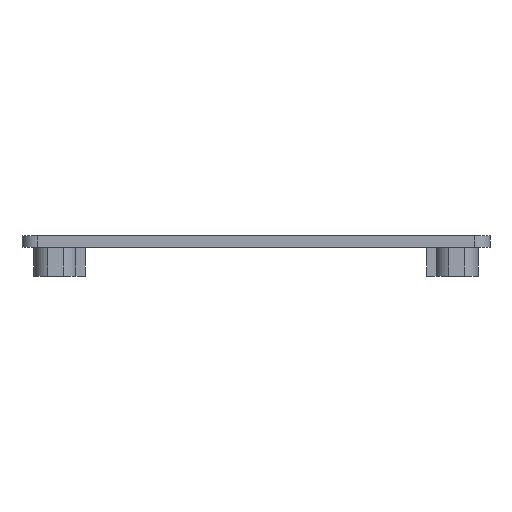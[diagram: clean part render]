
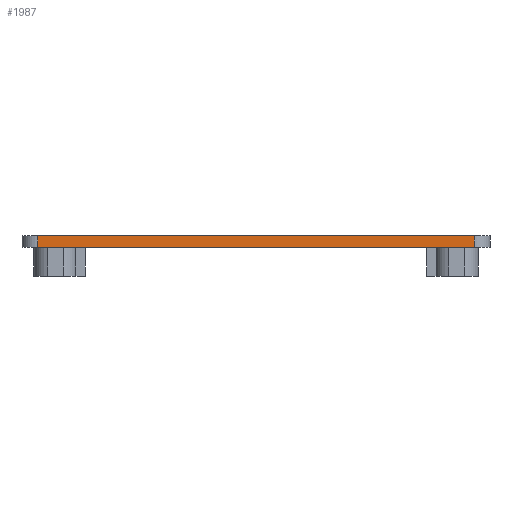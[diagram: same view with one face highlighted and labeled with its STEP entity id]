
A CAD part, left-side view. The second image highlights one B-rep face of the part: STEP entity #1987.
In plain terms, the highlighted planar face has unit normal (-1, 0, 0).
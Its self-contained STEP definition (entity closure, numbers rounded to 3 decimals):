
#185=FACE_OUTER_BOUND('',#291,.T.);
#291=EDGE_LOOP('',(#1351,#1352,#1353,#1354));
#431=LINE('',#2939,#639);
#432=LINE('',#2942,#640);
#433=LINE('',#2944,#641);
#434=LINE('',#2945,#642);
#639=VECTOR('',#2337,10.);
#640=VECTOR('',#2340,10.);
#641=VECTOR('',#2341,10.);
#642=VECTOR('',#2342,10.);
#847=VERTEX_POINT('',#2935);
#848=VERTEX_POINT('',#2937);
#849=VERTEX_POINT('',#2941);
#850=VERTEX_POINT('',#2943);
#1049=EDGE_CURVE('',#848,#847,#431,.T.);
#1050=EDGE_CURVE('',#847,#849,#432,.T.);
#1051=EDGE_CURVE('',#850,#848,#433,.T.);
#1052=EDGE_CURVE('',#850,#849,#434,.T.);
#1351=ORIENTED_EDGE('',*,*,#1050,.F.);
#1352=ORIENTED_EDGE('',*,*,#1049,.F.);
#1353=ORIENTED_EDGE('',*,*,#1051,.F.);
#1354=ORIENTED_EDGE('',*,*,#1052,.T.);
#1922=PLANE('',#2114);
#1987=ADVANCED_FACE('',(#185),#1922,.F.);
#2114=AXIS2_PLACEMENT_3D('',#2940,#2338,#2339);
#2337=DIRECTION('',(0.,0.,1.));
#2338=DIRECTION('center_axis',(1.,0.,0.));
#2339=DIRECTION('ref_axis',(0.,1.,0.));
#2340=DIRECTION('',(0.,-1.,0.));
#2341=DIRECTION('',(0.,1.,0.));
#2342=DIRECTION('',(0.,0.,1.));
#2935=CARTESIAN_POINT('',(0.,58.,10.));
#2937=CARTESIAN_POINT('',(0.,58.,8.5));
#2939=CARTESIAN_POINT('',(0.,58.,8.5));
#2940=CARTESIAN_POINT('Origin',(0.,2.,8.5));
#2941=CARTESIAN_POINT('',(0.,2.,10.));
#2942=CARTESIAN_POINT('',(0.,16.,10.));
#2943=CARTESIAN_POINT('',(0.,2.,8.5));
#2944=CARTESIAN_POINT('',(0.,16.,8.5));
#2945=CARTESIAN_POINT('',(0.,2.,8.5));
